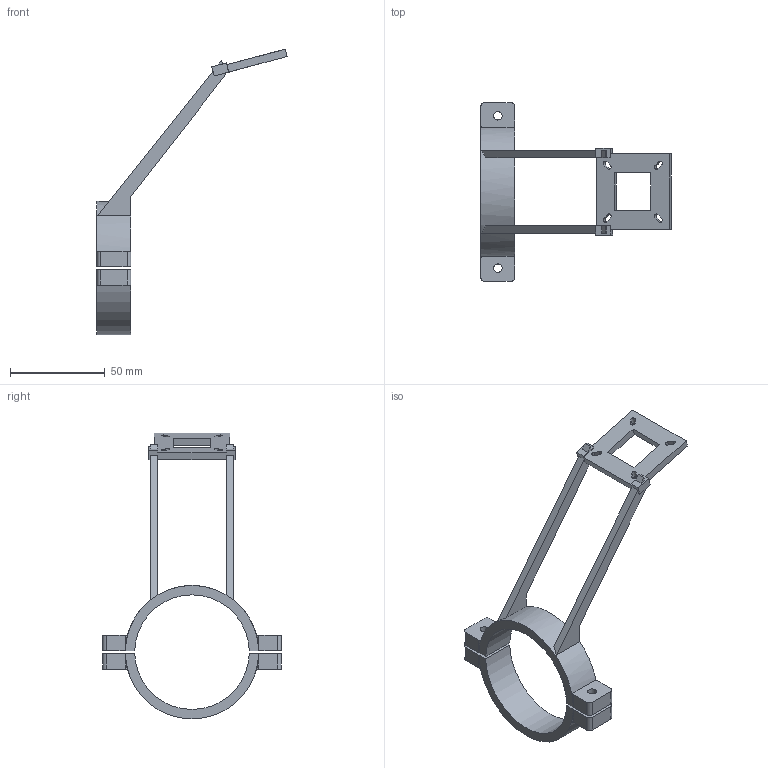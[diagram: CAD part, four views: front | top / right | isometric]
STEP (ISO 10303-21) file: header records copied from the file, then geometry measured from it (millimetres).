
FILE_DESCRIPTION(('Open CASCADE Model'),'2;1');
FILE_NAME('Open CASCADE Shape Model','2026-09-19T13:10:39',('Author'),( 'Open CASCADE'),'Open CASCADE STEP processor 7.9','Open CASCADE 7.9' ,'Unknown');
FILE_SCHEMA(('AUTOMOTIVE_DESIGN { 1 0 10303 214 1 1 1 1 }'));
Length unit declared in the file: millimetre
Products named in the file (3): fixed_board_60mm; upper; lower
Assembly tree (2 placements, depth 2):
  fixed_board_60mm
    upper
    lower
Bounding box: 100.69 x 94.6 x 151.17 mm (x, y, z)
Volume: 35221.6 mm3; surface area: 20375.5 mm2
Topology: 2 solids, 2 shells, 112 faces, 324 edges, 216 vertices
Faces by surface type: plane 80, cylinder 32
Full cylindrical faces by diameter (mm): 4.5 x4
Entity records: 8429 total; most frequent: CARTESIAN_POINT 2103, DIRECTION 1110, LINE 716, VECTOR 716, ORIENTED_EDGE 648, PCURVE 648, DEFINITIONAL_REPRESENTATION 648, EDGE_CURVE 324
